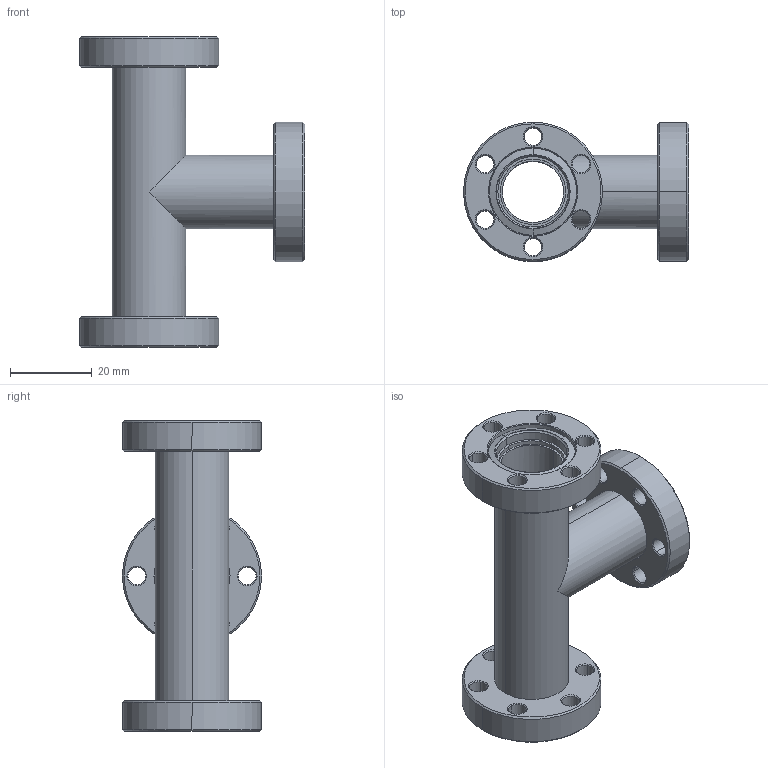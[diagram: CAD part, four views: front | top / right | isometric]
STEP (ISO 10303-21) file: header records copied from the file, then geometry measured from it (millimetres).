
FILE_DESCRIPTION((''),'2;1');
FILE_NAME('N:\Transfer\Berger Martin\Leybold\C15\83614.stp','2005-02-07T08:50:45',('VCRC_L'),(''),'Autodesk Inventor 9','Autodesk Inventor 9','');
FILE_SCHEMA(('AUTOMOTIVE_DESIGN { 1 0 10303 214 1 1 1 1 }'));
Length unit declared in the file: millimetre
Products named in the file (1): 83614
Bounding box: 55 x 34 x 76 mm (x, y, z)
Volume: 19594.7 mm3; surface area: 19685.1 mm2
Topology: 1 solids, 1 shells, 223 faces, 513 edges, 305 vertices
Faces by surface type: cone 110, bspline 46, cylinder 44, plane 17, torus 6
Entity records: 7311 total; most frequent: CARTESIAN_POINT 2094, DIRECTION 1190, ORIENTED_EDGE 1026, EDGE_CURVE 513, AXIS2_PLACEMENT_3D 499, CIRCLE 313, VERTEX_POINT 305, EDGE_LOOP 276
